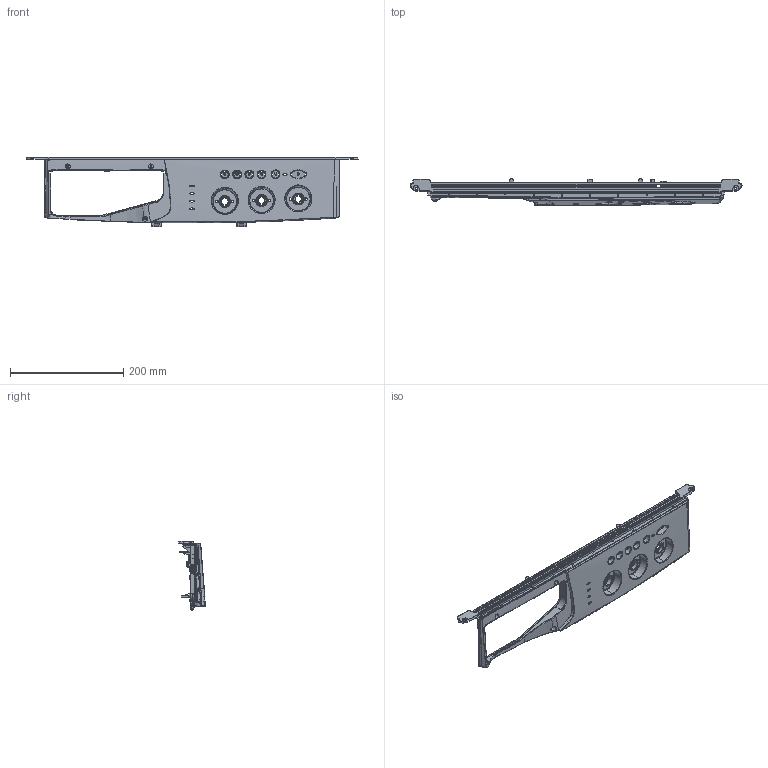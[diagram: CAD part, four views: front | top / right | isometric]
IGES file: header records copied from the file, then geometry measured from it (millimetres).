
Start section: Comment
Global section: file name: 148037199.igs; native system:  By UGS Corp.; preprocessor: XPlus GENERIC/IGES 3.0; author: Author; organization: Title; date: 20080207.145919; units: millimetre
Bounding box: 586.92 x 47.31 x 122.5 mm (x, y, z)
Surface area: 203051.2 mm2 (no closed solid volume)
Topology: 0 solids, 0 shells, 1764 faces, 10616 edges, 10593 vertices
Faces by surface type: bspline 1764
